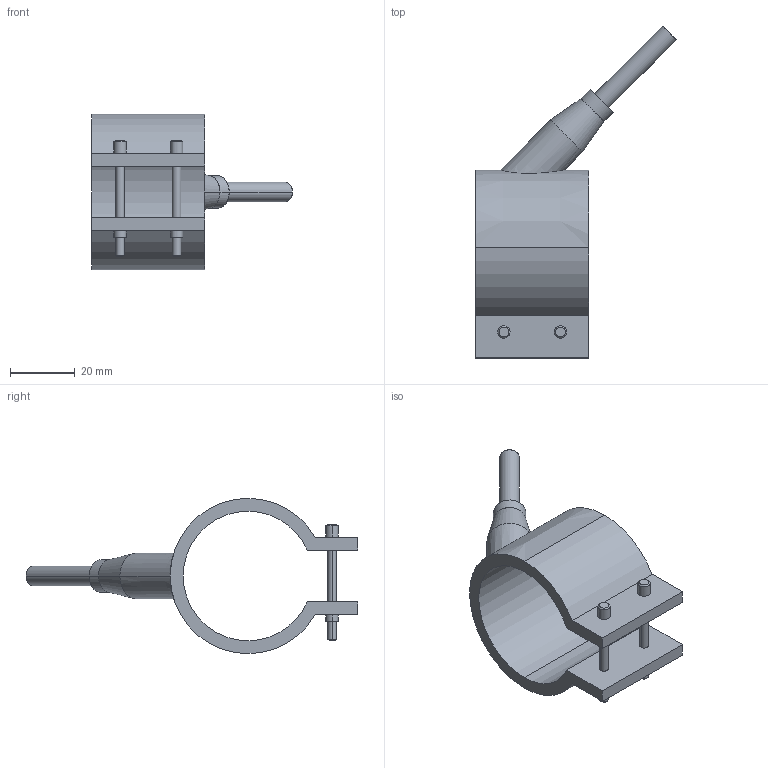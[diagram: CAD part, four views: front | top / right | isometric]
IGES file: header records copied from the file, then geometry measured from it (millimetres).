
Start section: START RECORD GO HERE.
Global section: file name: 29040035.igs; native system: DASSAULT SYSTEMES CATIA V5 R20 - www.3ds.com; preprocessor: CATIA Version 5 Release 20 ; author: Utente; organization: NB04-ASUS; date: 20210327.095700; units: millimetre
Bounding box: 62.05 x 102.55 x 48 mm (x, y, z)
Surface area: 13841.6 mm2 (no closed solid volume)
Topology: 0 solids, 0 shells, 54 faces, 248 edges, 248 vertices
Faces by surface type: revolution 38, plane 16
